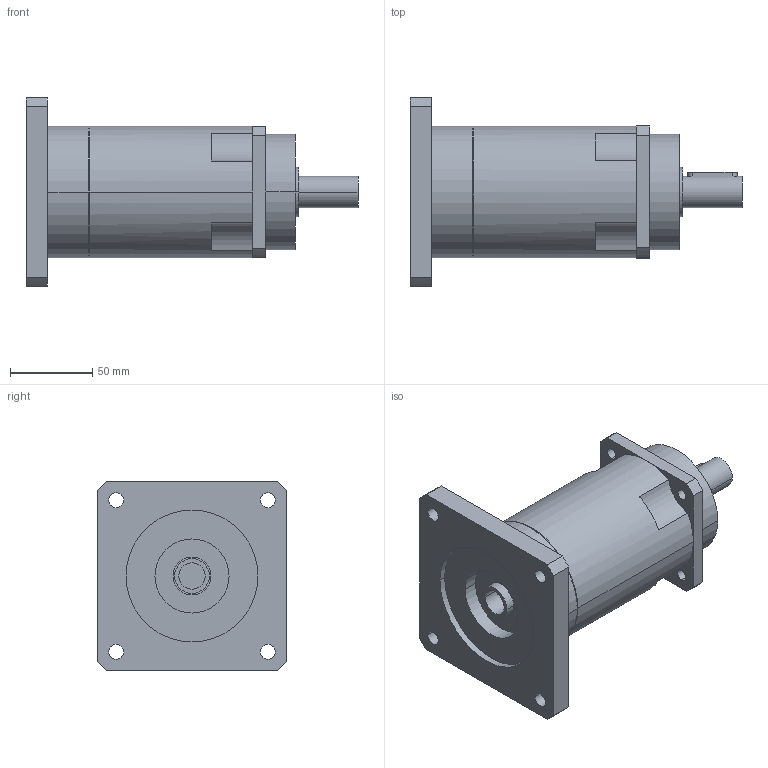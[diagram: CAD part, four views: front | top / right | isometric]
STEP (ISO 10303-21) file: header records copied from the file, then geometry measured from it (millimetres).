
FILE_DESCRIPTION(('CoCreate Modeling STEP Export'),'2;1');
FILE_NAME('GPR100_ig-48-64-80-100-120-144-180-216_19_B5_16_P30.stp','2014-08-26T11:55:55',(''),(''),'CoCreate Modeling STEP processor for AP214 (Solid Model)','CoCreate Modeling 16.00C 25-Feb-2009 (C) Parametric Technology GmbH','');
FILE_SCHEMA(('AUTOMOTIVE_DESIGN { 1 0 10303 214 1 1 1 1 }'));
Length unit declared in the file: millimetre
Products named in the file (2): GPR100_ig-48-64-80-100-120-144-180-216_19_B5_16_P30
Assembly tree (1 placements, depth 2):
  GPR100_ig-48-64-80-100-120-144-180-216_19_B5_16_P30
    GPR100_ig-48-64-80-100-120-144-180-216_19_B5_16_P30
Bounding box: 201.4 x 115 x 115 mm (x, y, z)
Volume: 875630.1 mm3; surface area: 81988.1 mm2
Topology: 1 solids, 1 shells, 89 faces, 240 edges, 162 vertices
Faces by surface type: cylinder 52, plane 31, cone 6
Entity records: 2577 total; most frequent: ORIENTED_EDGE 476, CARTESIAN_POINT 467, DIRECTION 386, EDGE_CURVE 238, VERTEX_POINT 162, AXIS2_PLACEMENT_3D 145, EDGE_LOOP 116, VECTOR 96
